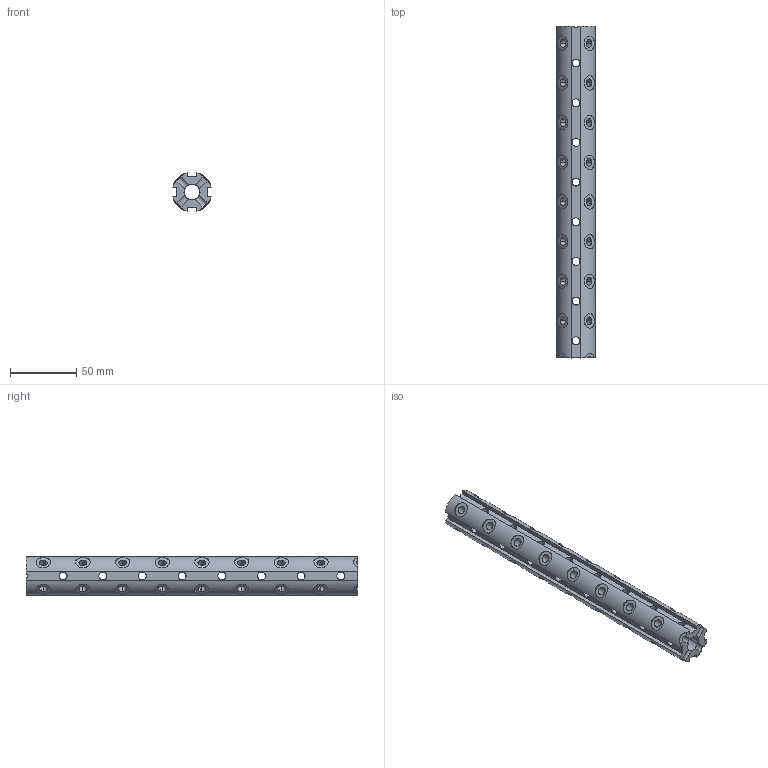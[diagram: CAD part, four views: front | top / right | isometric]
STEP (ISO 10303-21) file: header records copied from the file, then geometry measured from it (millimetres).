
FILE_DESCRIPTION(('STEP AP214'),'1');
FILE_NAME('EGT003_xxxixxx_AL_PROFIL_30.CATPart.stp','2015-09-14T13:03:39',('3D-Tool'),(' '),'Spatial InterOp 3D',' ',' ');
FILE_SCHEMA(('automotive_design'));
Length unit declared in the file: millimetre
Products named in the file (1): EGT003_xxxixxx_AL_PROFIL_30|EGT003_AL_PROFIL_30|Split.2
Bounding box: 29.07 x 251 x 29.07 mm (x, y, z)
Volume: 108060.1 mm3; surface area: 45680.9 mm2
Topology: 1 solids, 1 shells, 480 faces, 1440 edges, 960 vertices
Faces by surface type: cylinder 424, plane 56
Entity records: 27853 total; most frequent: CARTESIAN_POINT 11341, ORIENTED_EDGE 2880, DIRECTION 2326, EDGE_CURVE 1440, VERTEX_POINT 960, AXIS2_PLACEMENT_3D 905, EDGE_LOOP 608, LINE 516
